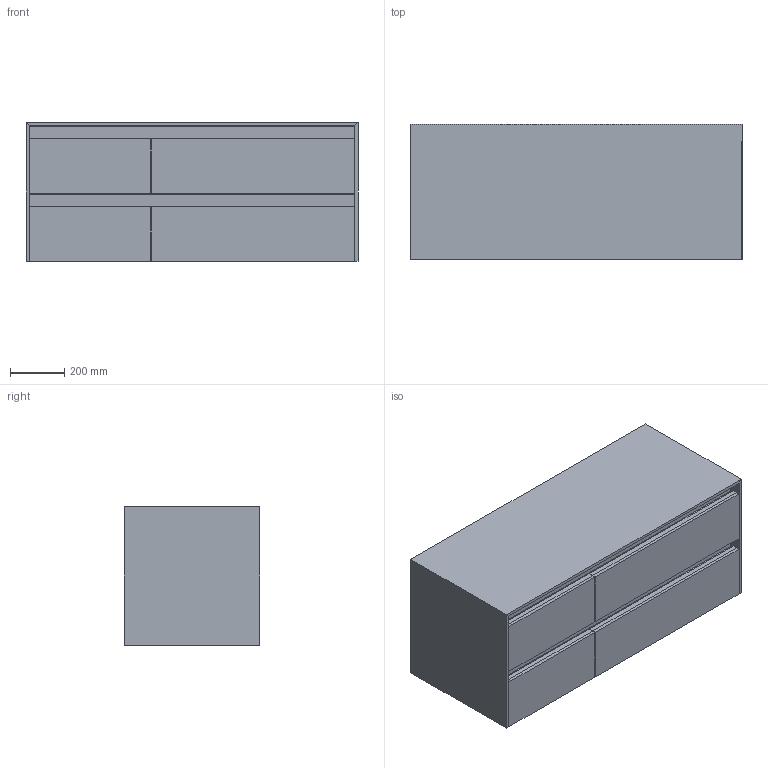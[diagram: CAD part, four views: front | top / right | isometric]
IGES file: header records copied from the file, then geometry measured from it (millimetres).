
Global section: file name: \\Archi-NAS\Comune\X GIOVANNI\MOBILI\VICTORIA\VICTORIA 3.igs; native system: Rhinoceros ( Jan 17 2018 ); preprocessor: Trout Lake IGES 012 Jan 17 2018; date: 230608.065538; units: millimetre
Bounding box: 1224 x 500 x 512 mm (x, y, z)
Surface area: 12720107.8 mm2 (no closed solid volume)
Topology: 0 solids, 0 shells, 228 faces, 960 edges, 960 vertices
Faces by surface type: bspline 228
